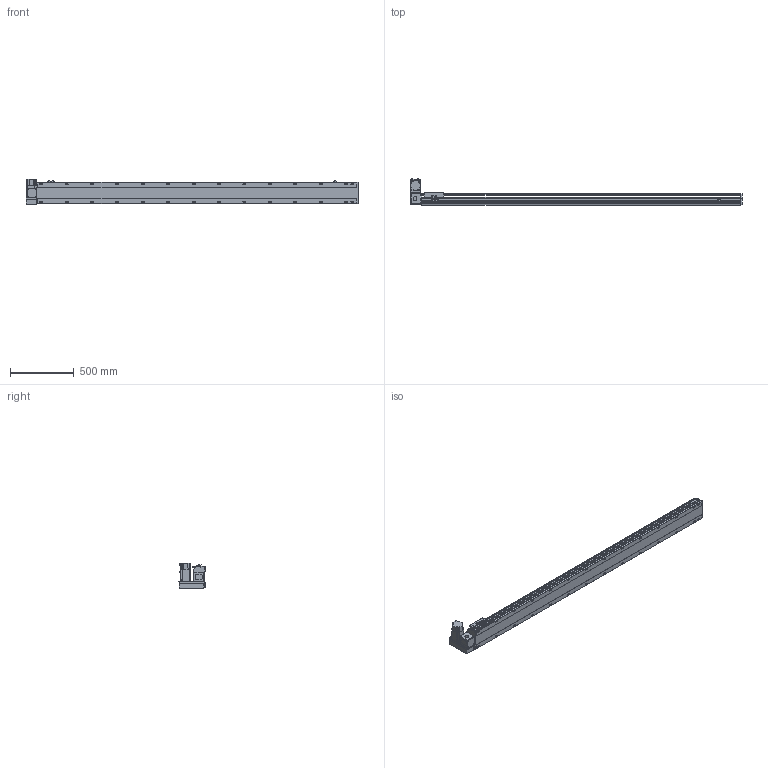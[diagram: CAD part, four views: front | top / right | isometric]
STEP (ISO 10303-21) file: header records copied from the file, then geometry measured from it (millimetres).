
FILE_DESCRIPTION( ( 'STEP AP214' ), '1' );
FILE_NAME( 'x:/temp/worker_4/temp/exporttempdir_2248_414_XVGJf/format_0/PBS170-P40-S2250-LU-T75-C1-N(0).stp', '2022-06-07T08:17:06', ( 'License CC BY-ND 4.0' ), ( 'CADENAS' ), ' ', 'PARTsolutions', ' ' );
FILE_SCHEMA( ( 'AUTOMOTIVE_DESIGN { 1 0 10303 214 1 1 1 1 }' ) );
Length unit declared in the file: millimetre
Products named in the file (7): PBS170-P40-S2250-LU-T75-C1-N(0); _PBS170-S2250()_body; _PBS170T-LU_motors; _T75-p1; _PBS170_sliser; _PBS170_plant; _PBS170_sensor
Assembly tree (8 placements, depth 2):
  PBS170-P40-S2250-LU-T75-C1-N(0)
    _PBS170-S2250()_body
    _PBS170T-LU_motors
    _T75-p1
    _PBS170_sliser
    _PBS170_plant
    _PBS170_sensor  x3
Bounding box: 2613 x 206 x 197.3 mm (x, y, z)
Volume: 19894307.2 mm3; surface area: 2515826.5 mm2
Topology: 8 solids, 8 shells, 1178 faces, 3115 edges, 2030 vertices
Faces by surface type: plane 723, cylinder 387, cone 58, sphere 8, torus 2
Full cylindrical faces by diameter (mm): 3.242 x4, 4 x2, 4.4 x4, 4.5 x6, 4.917 x4, 6 x9, 6.647 x36, 7 x2, 7.5 x4, 8 x8, 8.5 x28, 10 x4, 10.5 x28, 11 x2, 30 x2, 40 x1, 70 x1
Entity records: 43592 total; most frequent: CARTESIAN_POINT 7229, DIRECTION 5720, ORIENTED_EDGE 5388, EDGE_CURVE 2694, AXIS2_PLACEMENT_3D 2017, VERTEX_POINT 1874, LINE 1686, VECTOR 1686
